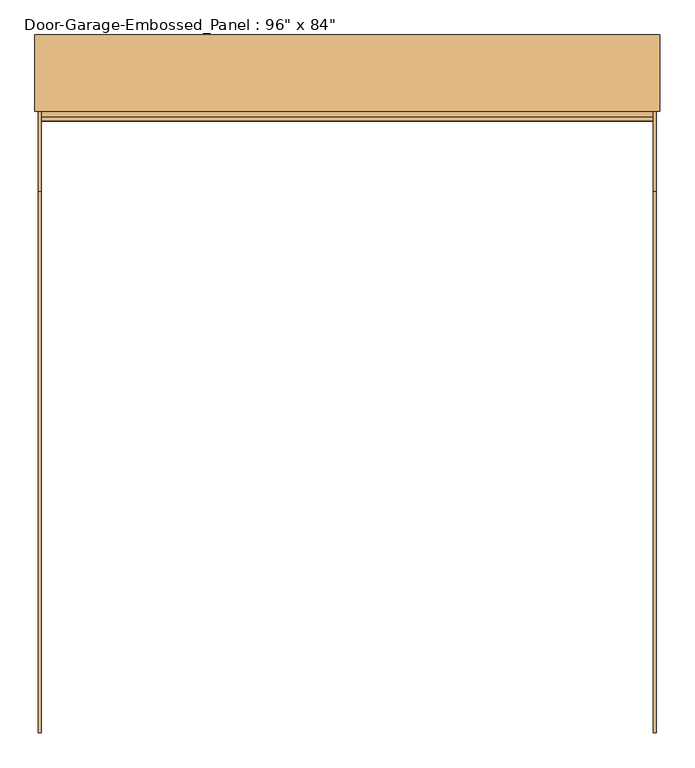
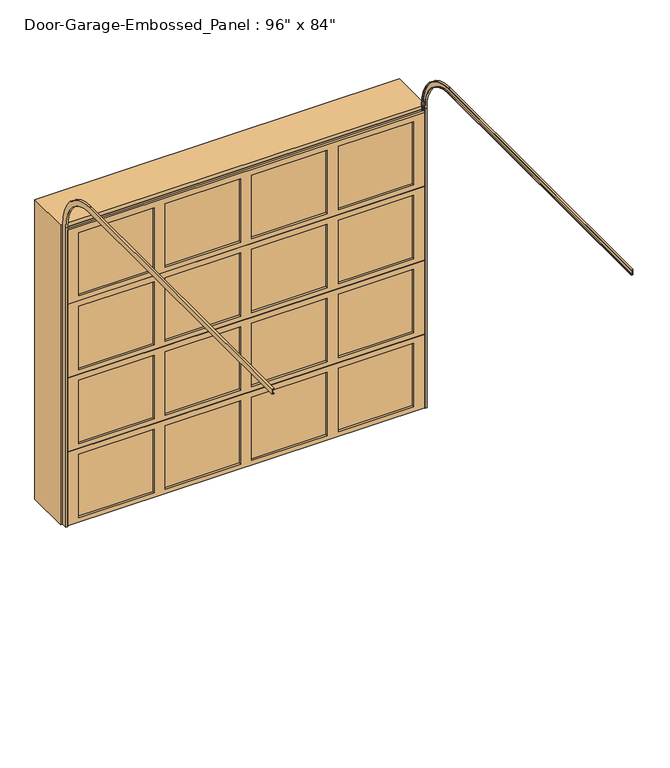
"""IFC4 building model written with IfcOpenShell, lengths in millimetres: door geometry."""

import ifcopenshell
import ifcopenshell.guid

model = None  # the IFC model being written
_history = None  # IfcOwnerHistory: only IFC2X3 demands one
_inside = {}  # id of a spatial element -> (the spatial element, [elements in it])
_under = {}  # id of a project, library or spatial element -> (it, [spatial elements below it])
_declared = {}  # id of a project -> (the project, [libraries it declares])
_typed = {}  # id of a type object -> (the type object, [elements of that type])
_made_of = {}  # id of a material, layer set ... -> (it, [elements and type objects made of it])


def new_model(schema):
    """Start an empty IFC model of exactly this schema.

    Asked for "IFC4X3", IfcOpenShell would pick the latest addendum, in which some entities
    have other attributes; the version numbers below select the first issue.
    IFC2X3 requires an IfcOwnerHistory on every rooted entity: one is made here for all.
    """
    global model, _history
    if schema == "IFC4X3":
        model = ifcopenshell.file(schema_version=(4, 3, 0, 0))
    else:
        model = ifcopenshell.file(schema=schema)
    _inside.clear()
    _under.clear()
    _declared.clear()
    _typed.clear()
    _made_of.clear()
    _history = None
    if model.schema == "IFC2X3":
        org = make("IfcOrganization", Name="unknown")
        user = make(
            "IfcPersonAndOrganization",
            ThePerson=make("IfcPerson", FamilyName="unknown"),
            TheOrganization=org,
        )
        app = make(
            "IfcApplication",
            ApplicationDeveloper=org,
            Version="unknown",
            ApplicationFullName="unknown",
            ApplicationIdentifier="unknown",
        )
        _history = make(
            "IfcOwnerHistory",
            OwningUser=user,
            OwningApplication=app,
            ChangeAction="ADDED",
            CreationDate=0,
        )
    return model


def make(cls, **values):
    """One entity of the class cls with the attributes given. An attribute that is None is left unset."""
    return model.create_entity(
        cls, **{name: value for name, value in values.items() if value is not None}
    )


def rooted(cls, **values):
    """An entity with a GlobalId (a new one), such as an element, a storey or a relation."""
    return make(cls, GlobalId=ifcopenshell.guid.new(), OwnerHistory=_history, **values)


def si_unit(unit_type, name, prefix=None):
    """IfcSIUnit, for example si_unit("LENGTHUNIT", "METRE", prefix="MILLI")."""
    return make("IfcSIUnit", UnitType=unit_type, Prefix=prefix, Name=name)


def assignment(units):
    """IfcUnitAssignment: the units of a project."""
    return None if units is None else make("IfcUnitAssignment", Units=units)


def point(xyz):
    """IfcCartesianPoint."""
    return None if xyz is None else make("IfcCartesianPoint", Coordinates=xyz)


def direction(xyz):
    """IfcDirection."""
    return None if xyz is None else make("IfcDirection", DirectionRatios=xyz)


def frame(location, z_axis=None, x_axis=None):
    """IfcAxis2Placement3D, a coordinate frame: its origin and axes. An axis left out is left unset."""
    return make(
        "IfcAxis2Placement3D",
        Location=point(location),
        Axis=direction(z_axis),
        RefDirection=direction(x_axis),
    )


def origin():
    """The frame at (0, 0, 0) with its axes left unset."""
    return frame((0.0, 0.0, 0.0))


def place(relative_to, where):
    """IfcLocalPlacement: puts the frame where relative to a parent placement (None: the world)."""
    return make(
        "IfcLocalPlacement", PlacementRelTo=relative_to, RelativePlacement=where
    )


def context(
    kind, dimensions, precision=None, world=None, true_north=None, identifier=None
):
    """IfcGeometricRepresentationContext, for example the 3D "Model" context."""
    return make(
        "IfcGeometricRepresentationContext",
        ContextIdentifier=identifier,
        ContextType=kind,
        CoordinateSpaceDimension=dimensions,
        Precision=precision,
        WorldCoordinateSystem=world,
        TrueNorth=true_north,
    )


def project(units=None, contexts=None):
    """IfcProject with its units and contexts."""
    return rooted(
        "IfcProject",
        Name="project",
        RepresentationContexts=contexts,
        UnitsInContext=assignment(units),
    )


def spatial(cls, under=None, at=None, **own):
    """A site, building, storey or space (cls), placed at a placement, below another one or the project."""
    s = rooted(cls, ObjectPlacement=at, **own)
    if under is not None:
        _under.setdefault(under.id(), (under, []))[1].append(s)
    return s


def polyline(points):
    """IfcPolyline through the points."""
    return make("IfcPolyline", Points=[point(p) for p in points])


def circle_curve(where, radius):
    """IfcCircle in the frame where."""
    return make("IfcCircle", Position=where, Radius=radius)


def outline(outer, holes=None, kind="AREA"):
    """IfcArbitraryClosedProfileDef: a profile drawn as a closed curve; with holes, ...WithVoids."""
    if holes is None:
        return make("IfcArbitraryClosedProfileDef", ProfileType=kind, OuterCurve=outer)
    return make(
        "IfcArbitraryProfileDefWithVoids",
        ProfileType=kind,
        OuterCurve=outer,
        InnerCurves=holes,
    )


def extrude(swept, where, along, depth):
    """IfcExtrudedAreaSolid: the profile swept, set in the frame where, extruded along a direction by depth."""
    return make(
        "IfcExtrudedAreaSolid",
        SweptArea=swept,
        Position=where,
        ExtrudedDirection=direction(along),
        Depth=depth,
    )


def faces_of(points, faces, orient=None, outer=None):
    """IfcFace entities. A face is a list of loops; a loop is a list of indices into points, from 0.

    orient and outer hold one flag for each loop. By default every Orientation is true, the
    first loop of a face is its IfcFaceOuterBound and the others are IfcFaceBound.
    """
    made = []
    for i, loops in enumerate(faces):
        bounds = []
        for j, loop in enumerate(loops):
            is_outer = j == 0 if outer is None else outer[i][j]
            bounds.append(
                make(
                    "IfcFaceOuterBound" if is_outer else "IfcFaceBound",
                    Bound=make("IfcPolyLoop", Polygon=[points[k] for k in loop]),
                    Orientation=True if orient is None else orient[i][j],
                )
            )
        made.append(make("IfcFace", Bounds=bounds))
    return made


def faceted_brep(points, faces, orient=None, outer=None, voids=None):
    """IfcFacetedBrep: a solid bounded by flat faces; with voids (closed shells), ...WithVoids."""
    shared = [point(p) for p in points]
    hull = make("IfcClosedShell", CfsFaces=faces_of(shared, faces, orient, outer))
    if voids is None:
        return make("IfcFacetedBrep", Outer=hull)
    return make(
        "IfcFacetedBrepWithVoids",
        Outer=hull,
        Voids=[
            make(cls, CfsFaces=faces_of(shared, fs, o, b)) for cls, fs, o, b in voids
        ],
    )


def shape(context_of_items, identifier, shape_type, items):
    """IfcShapeRepresentation: the items that make up one representation, for example the "Body"."""
    return make(
        "IfcShapeRepresentation",
        ContextOfItems=context_of_items,
        RepresentationIdentifier=identifier,
        RepresentationType=shape_type,
        Items=items,
    )


def source(mapping_origin, context_of_items, identifier, shape_type, items):
    """IfcRepresentationMap: a shape defined once, which mapped items show again and again."""
    return make(
        "IfcRepresentationMap",
        MappingOrigin=mapping_origin,
        MappedRepresentation=shape(context_of_items, identifier, shape_type, items),
    )


def transform(
    local_origin,
    x_axis=None,
    y_axis=None,
    z_axis=None,
    scale=None,
    scale2=None,
    scale3=None,
    uniform=True,
):
    """IfcCartesianTransformationOperator3D, or its non-uniform kind. x_axis, y_axis, z_axis: its Axis1, 2, 3."""
    if uniform:
        return make(
            "IfcCartesianTransformationOperator3D",
            Axis1=direction(x_axis),
            Axis2=direction(y_axis),
            LocalOrigin=point(local_origin),
            Scale=scale,
            Axis3=direction(z_axis),
        )
    return make(
        "IfcCartesianTransformationOperator3DnonUniform",
        Axis1=direction(x_axis),
        Axis2=direction(y_axis),
        LocalOrigin=point(local_origin),
        Scale=scale,
        Axis3=direction(z_axis),
        Scale2=scale2,
        Scale3=scale3,
    )


def mapped(mapping_source, mapping_target):
    """IfcMappedItem: shows the shape of a source again, moved by a transform."""
    return make(
        "IfcMappedItem", MappingSource=mapping_source, MappingTarget=mapping_target
    )


def made_of(thing, what):
    """Note that an element or type object is made of a material, layer set ...; save() writes the relation."""
    if what is not None:
        _made_of.setdefault(what.id(), (what, []))[1].append(thing)
    return thing


def element(
    cls,
    number,
    at=None,
    inside=None,
    cuts=None,
    type_object=None,
    material=None,
    context=None,
    identifier="Body",
    shape_type=None,
    held_by="IfcProductDefinitionShape",
    body=None,
    shapes=None,
    **own,
):
    """One element of the class cls, such as IfcWall. Its Tag is "e" and its number.

    at: its placement. inside: the storey or other place that contains it. cuts: it is an
    opening in that element (IfcRelVoidsElement). A single representation is given by context,
    identifier, shape_type and body (its items); several are given by shapes. held_by: the class
    of the entity that holds the representations. save() writes the other relations.
    """
    e = rooted(cls, Tag="e%d" % number, ObjectPlacement=at, **own)
    if body is not None:
        shapes = [shape(context, identifier, shape_type, body)]
    if shapes is not None:
        e.Representation = make(held_by, Representations=shapes)
    if inside is not None:
        _inside.setdefault(inside.id(), (inside, []))[1].append(e)
    if cuts is not None:
        rooted(
            "IfcRelVoidsElement", RelatingBuildingElement=cuts, RelatedOpeningElement=e
        )
    if type_object is not None:
        _typed.setdefault(type_object.id(), (type_object, []))[1].append(e)
    return made_of(e, material)


def aggregate(whole, parts):
    """IfcRelAggregates: a whole, such as a stair, and the parts it consists of."""
    return rooted("IfcRelAggregates", RelatingObject=whole, RelatedObjects=parts)


def save(model, path):
    """Write the relations noted so far, then the file.

    IfcRelAggregates (storeys below a building ...), IfcRelContainedInSpatialStructure (elements
    in a storey), IfcRelDefinesByType, IfcRelAssociatesMaterial and IfcRelDeclares: one each for
    every whole, place, type object, material and project.
    """
    for whole, parts in _under.values():
        aggregate(whole, parts)
    for where, things in _inside.values():
        rooted(
            "IfcRelContainedInSpatialStructure",
            RelatedElements=things,
            RelatingStructure=where,
        )
    for kind, things in _typed.values():
        rooted("IfcRelDefinesByType", RelatedObjects=things, RelatingType=kind)
    for what, things in _made_of.values():
        rooted("IfcRelAssociatesMaterial", RelatedObjects=things, RelatingMaterial=what)
    for by, libraries in _declared.values():
        rooted("IfcRelDeclares", RelatingContext=by, RelatedDefinitions=libraries)
    model.write(path)


def plane_surface(at):
    """IfcPlane: the flat surface through the origin of the frame at, square to its z axis."""
    return make("IfcPlane", Position=at)


def cylinder_surface(at, radius):
    """IfcCylindricalSurface: all points at the distance radius from the z axis of the frame at."""
    return make("IfcCylindricalSurface", Position=at, Radius=radius)


def revolved_surface(curve, axis_point, axis_direction):
    """IfcSurfaceOfRevolution: the curve turned about the line through axis_point along axis_direction."""
    return make(
        "IfcSurfaceOfRevolution",
        SweptCurve=make("IfcArbitraryOpenProfileDef", ProfileType="CURVE", Curve=curve),
        AxisPosition=make("IfcAxis1Placement", Location=point(axis_point), Axis=direction(axis_direction)),
    )


def advanced_brep(points, edges, surfaces, faces):
    """IfcAdvancedBrep: a solid bounded by faces that lie on surfaces and meet in shared edges.

    An edge is (start, end): straight between two places in points (the first is 0);
    or (start, end, curve); or (start, end, curve, False) where it runs against its curve.
    A face is (place in surfaces, loops), or (place, loops, False) where it looks against
    its surface's normal. A loop lists edges by number (the first is 1), with a minus sign
    where the edge is run from its end to its start. The first loop is the outer one.
    """
    corners = [point(p) for p in points]
    vertices = [make("IfcVertexPoint", VertexGeometry=c) for c in corners]
    made = []
    for start, end, *more in edges:
        made.append(
            make(
                "IfcEdgeCurve",
                EdgeStart=vertices[start],
                EdgeEnd=vertices[end],
                EdgeGeometry=more[0] if more else make("IfcPolyline", Points=[corners[start], corners[end]]),
                SameSense=more[1] if len(more) > 1 else True,
            )
        )
    hull = []
    for where, loops, *sense in faces:
        bounds = []
        for j, loop in enumerate(loops):
            ring = [make("IfcOrientedEdge", EdgeElement=made[abs(k) - 1], Orientation=k > 0) for k in loop]
            bounds.append(
                make(
                    "IfcFaceOuterBound" if j == 0 else "IfcFaceBound",
                    Bound=make("IfcEdgeLoop", EdgeList=ring),
                    Orientation=True,
                )
            )
        hull.append(make("IfcAdvancedFace", Bounds=bounds, FaceSurface=surfaces[where], SameSense=sense[0] if sense else True))
    return make("IfcAdvancedBrep", Outer=make("IfcClosedShell", CfsFaces=hull))


def door_7a04b6f2(model_context):
    return source(origin(), model_context, "Body", "SolidModel", [
        extrude(outline(polyline([(552.45, -171.45), (552.45, -177.8), (38.1, -177.8), (38.1, -171.45), (552.45, -171.45)])), frame((0.0, 0.0, 1638.3), z_axis=(0.0, 0.0, 1.0), x_axis=(1.0, 0.0, 0.0)), (0.0, 0.0, 1.0), 457.2),
        extrude(outline(polyline([(-38.1, -171.45), (-38.1, -177.8), (-552.45, -177.8), (-552.45, -171.45), (-38.1, -171.45)])), frame((0.0, 0.0, 1638.3), z_axis=(0.0, 0.0, 1.0), x_axis=(1.0, 0.0, 0.0)), (0.0, 0.0, 1.0), 457.2),
        extrude(outline(polyline([(1143.0, -171.45), (1143.0, -177.8), (628.65, -177.8), (628.65, -171.45), (1143.0, -171.45)])), frame((0.0, 0.0, 1638.3), z_axis=(0.0, 0.0, 1.0), x_axis=(1.0, 0.0, 0.0)), (0.0, 0.0, 1.0), 457.2),
        extrude(outline(polyline([(-628.65, -171.45), (-628.65, -177.8), (-1143.0, -177.8), (-1143.0, -171.45), (-628.65, -171.45)])), frame((0.0, 0.0, 1638.3), z_axis=(0.0, 0.0, 1.0), x_axis=(1.0, 0.0, 0.0)), (0.0, 0.0, 1.0), 457.2),
        faceted_brep([(1219.2, -177.8, 2136.775), (1219.2, -193.675, 2136.775), (1219.2, -193.675, 1606.55), (1219.2, -171.45, 1606.55), (1219.2, -171.45, 1600.2), (1219.2, -155.575, 1600.2), (1219.2, -155.575, 2130.425), (1219.2, -177.8, 2130.425), (-1219.2, -193.675, 2136.775), (-1219.2, -177.8, 2136.775), (-1219.2, -177.8, 2130.425), (-1219.2, -155.575, 2130.425), (-1219.2, -155.575, 1600.2), (-1219.2, -171.45, 1600.2), (-1219.2, -171.45, 1606.55), (-1219.2, -193.675, 1606.55), (628.65, -193.675, 2095.5), (1143.0, -193.675, 2095.5), (1143.0, -193.675, 1638.3), (628.65, -193.675, 1638.3), (-552.45, -193.675, 2095.5), (-38.1, -193.675, 2095.5), (-38.1, -193.675, 1638.3), (-552.45, -193.675, 1638.3), (38.1, -193.675, 2095.5), (552.45, -193.675, 2095.5), (552.45, -193.675, 1638.3), (38.1, -193.675, 1638.3), (-1143.0, -193.675, 2095.5), (-628.65, -193.675, 2095.5), (-628.65, -193.675, 1638.3), (-1143.0, -193.675, 1638.3), (1143.0, -155.575, 2095.5), (628.65, -155.575, 2095.5), (628.65, -155.575, 1638.3), (1143.0, -155.575, 1638.3), (-38.1, -155.575, 2095.5), (-552.45, -155.575, 2095.5), (-552.45, -155.575, 1638.3), (-38.1, -155.575, 1638.3), (552.45, -155.575, 2095.5), (38.1, -155.575, 2095.5), (38.1, -155.575, 1638.3), (552.45, -155.575, 1638.3), (-628.65, -155.575, 2095.5), (-1143.0, -155.575, 2095.5), (-1143.0, -155.575, 1638.3), (-628.65, -155.575, 1638.3)], [[[0, 1, 2, 3, 4, 5, 6, 7]], [[8, 9, 10, 11, 12, 13, 14, 15]], [[1, 0, 9, 8]], [[2, 1, 8, 15], [16, 17, 18, 19], [20, 21, 22, 23], [24, 25, 26, 27], [28, 29, 30, 31]], [[3, 2, 15, 14]], [[4, 3, 14, 13]], [[5, 4, 13, 12]], [[6, 5, 12, 11], [32, 33, 34, 35], [36, 37, 38, 39], [40, 41, 42, 43], [44, 45, 46, 47]], [[7, 6, 11, 10]], [[0, 7, 10, 9]], [[16, 33, 32, 17]], [[33, 16, 19, 34]], [[34, 19, 18, 35]], [[17, 32, 35, 18]], [[20, 37, 36, 21]], [[37, 20, 23, 38]], [[38, 23, 22, 39]], [[21, 36, 39, 22]], [[24, 41, 40, 25]], [[41, 24, 27, 42]], [[42, 27, 26, 43]], [[25, 40, 43, 26]], [[28, 45, 44, 29]], [[45, 28, 31, 46]], [[46, 31, 30, 47]], [[29, 44, 47, 30]]]),
        extrude(outline(polyline([(552.45, -171.45), (552.45, -177.8), (38.1, -177.8), (38.1, -171.45), (552.45, -171.45)])), frame((0.0, 0.0, 1104.9), z_axis=(0.0, 0.0, 1.0), x_axis=(1.0, 0.0, 0.0)), (0.0, 0.0, 1.0), 457.2),
        extrude(outline(polyline([(-38.1, -171.45), (-38.1, -177.8), (-552.45, -177.8), (-552.45, -171.45), (-38.1, -171.45)])), frame((0.0, 0.0, 1104.9), z_axis=(0.0, 0.0, 1.0), x_axis=(1.0, 0.0, 0.0)), (0.0, 0.0, 1.0), 457.2),
        extrude(outline(polyline([(1143.0, -171.45), (1143.0, -177.8), (628.65, -177.8), (628.65, -171.45), (1143.0, -171.45)])), frame((0.0, 0.0, 1104.9), z_axis=(0.0, 0.0, 1.0), x_axis=(1.0, 0.0, 0.0)), (0.0, 0.0, 1.0), 457.2),
        extrude(outline(polyline([(-628.65, -171.45), (-628.65, -177.8), (-1143.0, -177.8), (-1143.0, -171.45), (-628.65, -171.45)])), frame((0.0, 0.0, 1104.9), z_axis=(0.0, 0.0, 1.0), x_axis=(1.0, 0.0, 0.0)), (0.0, 0.0, 1.0), 457.2),
        faceted_brep([(1219.2, -177.8, 1603.375), (1219.2, -193.675, 1603.375), (1219.2, -193.675, 1073.15), (1219.2, -171.45, 1073.15), (1219.2, -171.45, 1066.8), (1219.2, -155.575, 1066.8), (1219.2, -155.575, 1597.025), (1219.2, -177.8, 1597.025), (-1219.2, -193.675, 1603.375), (-1219.2, -177.8, 1603.375), (-1219.2, -177.8, 1597.025), (-1219.2, -155.575, 1597.025), (-1219.2, -155.575, 1066.8), (-1219.2, -171.45, 1066.8), (-1219.2, -171.45, 1073.15), (-1219.2, -193.675, 1073.15), (628.65, -193.675, 1562.1), (1143.0, -193.675, 1562.1), (1143.0, -193.675, 1104.9), (628.65, -193.675, 1104.9), (-552.45, -193.675, 1562.1), (-38.1, -193.675, 1562.1), (-38.1, -193.675, 1104.9), (-552.45, -193.675, 1104.9), (38.1, -193.675, 1562.1), (552.45, -193.675, 1562.1), (552.45, -193.675, 1104.9), (38.1, -193.675, 1104.9), (-1143.0, -193.675, 1562.1), (-628.65, -193.675, 1562.1), (-628.65, -193.675, 1104.9), (-1143.0, -193.675, 1104.9), (1143.0, -155.575, 1562.1), (628.65, -155.575, 1562.1), (628.65, -155.575, 1104.9), (1143.0, -155.575, 1104.9), (-38.1, -155.575, 1562.1), (-552.45, -155.575, 1562.1), (-552.45, -155.575, 1104.9), (-38.1, -155.575, 1104.9), (552.45, -155.575, 1562.1), (38.1, -155.575, 1562.1), (38.1, -155.575, 1104.9), (552.45, -155.575, 1104.9), (-628.65, -155.575, 1562.1), (-1143.0, -155.575, 1562.1), (-1143.0, -155.575, 1104.9), (-628.65, -155.575, 1104.9)], [[[0, 1, 2, 3, 4, 5, 6, 7]], [[8, 9, 10, 11, 12, 13, 14, 15]], [[1, 0, 9, 8]], [[2, 1, 8, 15], [16, 17, 18, 19], [20, 21, 22, 23], [24, 25, 26, 27], [28, 29, 30, 31]], [[3, 2, 15, 14]], [[4, 3, 14, 13]], [[5, 4, 13, 12]], [[6, 5, 12, 11], [32, 33, 34, 35], [36, 37, 38, 39], [40, 41, 42, 43], [44, 45, 46, 47]], [[7, 6, 11, 10]], [[0, 7, 10, 9]], [[16, 33, 32, 17]], [[33, 16, 19, 34]], [[34, 19, 18, 35]], [[17, 32, 35, 18]], [[20, 37, 36, 21]], [[37, 20, 23, 38]], [[38, 23, 22, 39]], [[21, 36, 39, 22]], [[24, 41, 40, 25]], [[41, 24, 27, 42]], [[42, 27, 26, 43]], [[25, 40, 43, 26]], [[28, 45, 44, 29]], [[45, 28, 31, 46]], [[46, 31, 30, 47]], [[29, 44, 47, 30]]]),
        extrude(outline(polyline([(552.45, -171.45), (552.45, -177.8), (38.1, -177.8), (38.1, -171.45), (552.45, -171.45)])), frame((0.0, 0.0, 571.5), z_axis=(0.0, 0.0, 1.0), x_axis=(1.0, 0.0, 0.0)), (0.0, 0.0, 1.0), 457.2),
        extrude(outline(polyline([(-38.1, -171.45), (-38.1, -177.8), (-552.45, -177.8), (-552.45, -171.45), (-38.1, -171.45)])), frame((0.0, 0.0, 571.5), z_axis=(0.0, 0.0, 1.0), x_axis=(1.0, 0.0, 0.0)), (0.0, 0.0, 1.0), 457.2),
        extrude(outline(polyline([(1143.0, -171.45), (1143.0, -177.8), (628.65, -177.8), (628.65, -171.45), (1143.0, -171.45)])), frame((0.0, 0.0, 571.5), z_axis=(0.0, 0.0, 1.0), x_axis=(1.0, 0.0, 0.0)), (0.0, 0.0, 1.0), 457.2),
        extrude(outline(polyline([(-628.65, -171.45), (-628.65, -177.8), (-1143.0, -177.8), (-1143.0, -171.45), (-628.65, -171.45)])), frame((0.0, 0.0, 571.5), z_axis=(0.0, 0.0, 1.0), x_axis=(1.0, 0.0, 0.0)), (0.0, 0.0, 1.0), 457.2),
        faceted_brep([(1219.2, -177.8, 1069.975), (1219.2, -193.675, 1069.975), (1219.2, -193.675, 539.75), (1219.2, -171.45, 539.75), (1219.2, -171.45, 533.4), (1219.2, -155.575, 533.4), (1219.2, -155.575, 1063.625), (1219.2, -177.8, 1063.625), (-1219.2, -193.675, 1069.975), (-1219.2, -177.8, 1069.975), (-1219.2, -177.8, 1063.625), (-1219.2, -155.575, 1063.625), (-1219.2, -155.575, 533.4), (-1219.2, -171.45, 533.4), (-1219.2, -171.45, 539.75), (-1219.2, -193.675, 539.75), (628.65, -193.675, 1028.7), (1143.0, -193.675, 1028.7), (1143.0, -193.675, 571.5), (628.65, -193.675, 571.5), (-552.45, -193.675, 1028.7), (-38.1, -193.675, 1028.7), (-38.1, -193.675, 571.5), (-552.45, -193.675, 571.5), (38.1, -193.675, 1028.7), (552.45, -193.675, 1028.7), (552.45, -193.675, 571.5), (38.1, -193.675, 571.5), (-1143.0, -193.675, 1028.7), (-628.65, -193.675, 1028.7), (-628.65, -193.675, 571.5), (-1143.0, -193.675, 571.5), (1143.0, -155.575, 1028.7), (628.65, -155.575, 1028.7), (628.65, -155.575, 571.5), (1143.0, -155.575, 571.5), (-38.1, -155.575, 1028.7), (-552.45, -155.575, 1028.7), (-552.45, -155.575, 571.5), (-38.1, -155.575, 571.5), (552.45, -155.575, 1028.7), (38.1, -155.575, 1028.7), (38.1, -155.575, 571.5), (552.45, -155.575, 571.5), (-628.65, -155.575, 1028.7), (-1143.0, -155.575, 1028.7), (-1143.0, -155.575, 571.5), (-628.65, -155.575, 571.5)], [[[0, 1, 2, 3, 4, 5, 6, 7]], [[8, 9, 10, 11, 12, 13, 14, 15]], [[1, 0, 9, 8]], [[2, 1, 8, 15], [16, 17, 18, 19], [20, 21, 22, 23], [24, 25, 26, 27], [28, 29, 30, 31]], [[3, 2, 15, 14]], [[4, 3, 14, 13]], [[5, 4, 13, 12]], [[6, 5, 12, 11], [32, 33, 34, 35], [36, 37, 38, 39], [40, 41, 42, 43], [44, 45, 46, 47]], [[7, 6, 11, 10]], [[0, 7, 10, 9]], [[16, 33, 32, 17]], [[33, 16, 19, 34]], [[34, 19, 18, 35]], [[17, 32, 35, 18]], [[20, 37, 36, 21]], [[37, 20, 23, 38]], [[38, 23, 22, 39]], [[21, 36, 39, 22]], [[24, 41, 40, 25]], [[41, 24, 27, 42]], [[42, 27, 26, 43]], [[25, 40, 43, 26]], [[28, 45, 44, 29]], [[45, 28, 31, 46]], [[46, 31, 30, 47]], [[29, 44, 47, 30]]]),
        extrude(outline(polyline([(552.45, -171.45), (552.45, -177.8), (38.1, -177.8), (38.1, -171.45), (552.45, -171.45)])), frame((0.0, 0.0, 38.1), z_axis=(0.0, 0.0, 1.0), x_axis=(1.0, 0.0, 0.0)), (0.0, 0.0, 1.0), 457.2),
        extrude(outline(polyline([(-38.1, -171.45), (-38.1, -177.8), (-552.45, -177.8), (-552.45, -171.45), (-38.1, -171.45)])), frame((0.0, 0.0, 38.1), z_axis=(0.0, 0.0, 1.0), x_axis=(1.0, 0.0, 0.0)), (0.0, 0.0, 1.0), 457.2),
        extrude(outline(polyline([(1143.0, -171.45), (1143.0, -177.8), (628.65, -177.8), (628.65, -171.45), (1143.0, -171.45)])), frame((0.0, 0.0, 38.1), z_axis=(0.0, 0.0, 1.0), x_axis=(1.0, 0.0, 0.0)), (0.0, 0.0, 1.0), 457.2),
        extrude(outline(polyline([(-628.65, -171.45), (-628.65, -177.8), (-1143.0, -177.8), (-1143.0, -171.45), (-628.65, -171.45)])), frame((0.0, 0.0, 38.1), z_axis=(0.0, 0.0, 1.0), x_axis=(1.0, 0.0, 0.0)), (0.0, 0.0, 1.0), 457.2),
        faceted_brep([(1219.2, -177.8, 536.575), (1219.2, -193.675, 536.575), (1219.2, -193.675, 6.35), (1219.2, -171.45, 6.35), (1219.2, -171.45, 0.0), (1219.2, -155.575, 0.0), (1219.2, -155.575, 530.225), (1219.2, -177.8, 530.225), (-1219.2, -193.675, 536.575), (-1219.2, -177.8, 536.575), (-1219.2, -177.8, 530.225), (-1219.2, -155.575, 530.225), (-1219.2, -155.575, 0.0), (-1219.2, -171.45, 0.0), (-1219.2, -171.45, 6.35), (-1219.2, -193.675, 6.35), (628.65, -193.675, 495.3), (1143.0, -193.675, 495.3), (1143.0, -193.675, 38.1), (628.65, -193.675, 38.1), (-552.45, -193.675, 495.3), (-38.1, -193.675, 495.3), (-38.1, -193.675, 38.1), (-552.45, -193.675, 38.1), (38.1, -193.675, 495.3), (552.45, -193.675, 495.3), (552.45, -193.675, 38.1), (38.1, -193.675, 38.1), (-1143.0, -193.675, 495.3), (-628.65, -193.675, 495.3), (-628.65, -193.675, 38.1), (-1143.0, -193.675, 38.1), (1143.0, -155.575, 495.3), (628.65, -155.575, 495.3), (628.65, -155.575, 38.1), (1143.0, -155.575, 38.1), (-38.1, -155.575, 495.3), (-552.45, -155.575, 495.3), (-552.45, -155.575, 38.1), (-38.1, -155.575, 38.1), (552.45, -155.575, 495.3), (38.1, -155.575, 495.3), (38.1, -155.575, 38.1), (552.45, -155.575, 38.1), (-628.65, -155.575, 495.3), (-1143.0, -155.575, 495.3), (-1143.0, -155.575, 38.1), (-628.65, -155.575, 38.1)], [[[0, 1, 2, 3, 4, 5, 6, 7]], [[8, 9, 10, 11, 12, 13, 14, 15]], [[1, 0, 9, 8]], [[2, 1, 8, 15], [16, 17, 18, 19], [20, 21, 22, 23], [24, 25, 26, 27], [28, 29, 30, 31]], [[3, 2, 15, 14]], [[4, 3, 14, 13]], [[5, 4, 13, 12]], [[6, 5, 12, 11], [32, 33, 34, 35], [36, 37, 38, 39], [40, 41, 42, 43], [44, 45, 46, 47]], [[7, 6, 11, 10]], [[0, 7, 10, 9]], [[16, 33, 32, 17]], [[33, 16, 19, 34]], [[34, 19, 18, 35]], [[17, 32, 35, 18]], [[20, 37, 36, 21]], [[37, 20, 23, 38]], [[38, 23, 22, 39]], [[21, 36, 39, 22]], [[24, 41, 40, 25]], [[41, 24, 27, 42]], [[42, 27, 26, 43]], [[25, 40, 43, 26]], [[28, 45, 44, 29]], [[45, 28, 31, 46]], [[46, 31, 30, 47]], [[29, 44, 47, 30]]]),
        advanced_brep(
        [(1231.9, -193.675, 0.0), (1219.2, -193.675, 0.0), (1219.2, -190.5, 0.0), (1228.725, -190.5, 0.0), (1228.725, -158.75, 0.0), (1219.2, -158.75, 0.0), (1219.2, -155.575, 0.0), (1231.9, -155.575, 0.0), (1231.9, -193.675, 2159.0), (1219.2, -193.675, 2159.0), (1219.2, -473.075, 2438.4), (1219.2, -2632.075, 2438.4), (1219.2, -2632.075, 2441.575), (1219.2, -473.075, 2441.575), (1219.2, -190.5, 2159.0), (1228.725, -190.5, 2159.0), (1228.725, -473.075, 2441.575), (1228.725, -2632.075, 2441.575), (1228.725, -2632.075, 2473.325), (1228.725, -473.075, 2473.325), (1228.725, -158.75, 2159.0), (1219.2, -158.75, 2159.0), (1219.2, -473.075, 2473.325), (1219.2, -2632.075, 2473.325), (1219.2, -2632.075, 2476.5), (1219.2, -473.075, 2476.5), (1219.2, -155.575, 2159.0), (1231.9, -155.575, 2159.0), (1231.9, -473.075, 2476.5), (1231.9, -2632.075, 2476.5), (1231.9, -2632.075, 2438.4), (1231.9, -473.075, 2438.4)],
        [
            (0, 1),
            (1, 2),
            (2, 3),
            (3, 4),
            (4, 5),
            (5, 6),
            (6, 7),
            (7, 0),
            (0, 8),
            (8, 9),
            (9, 1),
            (9, 10, circle_curve(frame((1219.2, -473.075, 2159.0), z_axis=(1.0, 0.0, 0.0), x_axis=(0.0, 1.0, 0.0)), 279.4)),
            (10, 11),
            (11, 12),
            (12, 13),
            (13, 14, circle_curve(frame((1219.2, -473.075, 2159.0), z_axis=(-1.0, 0.0, 0.0), x_axis=(0.0, 1.0, 0.0)), 282.575)),
            (14, 2),
            (14, 15),
            (15, 3),
            (15, 16, circle_curve(frame((1228.725, -473.075, 2159.0), z_axis=(1.0, 0.0, 0.0), x_axis=(0.0, 1.0, 0.0)), 282.575)),
            (16, 17),
            (17, 18),
            (18, 19),
            (19, 20, circle_curve(frame((1228.725, -473.075, 2159.0), z_axis=(-1.0, 0.0, 0.0), x_axis=(0.0, 1.0, 0.0)), 314.325)),
            (20, 4),
            (20, 21),
            (21, 5),
            (21, 22, circle_curve(frame((1219.2, -473.075, 2159.0), z_axis=(1.0, 0.0, 0.0), x_axis=(0.0, 1.0, 0.0)), 314.325)),
            (22, 23),
            (23, 24),
            (24, 25),
            (25, 26, circle_curve(frame((1219.2, -473.075, 2159.0), z_axis=(-1.0, 0.0, 0.0), x_axis=(0.0, 1.0, 0.0)), 317.5)),
            (26, 6),
            (26, 27),
            (27, 7),
            (27, 28, circle_curve(frame((1231.9, -473.075, 2159.0), z_axis=(1.0, 0.0, 0.0), x_axis=(0.0, 1.0, 0.0)), 317.5)),
            (28, 29),
            (29, 30),
            (30, 31),
            (31, 8, circle_curve(frame((1231.9, -473.075, 2159.0), z_axis=(-1.0, 0.0, 0.0), x_axis=(0.0, 1.0, 0.0)), 279.4)),
            (31, 10),
            (13, 16),
            (19, 22),
            (25, 28),
            (29, 24),
            (23, 18),
            (17, 12),
            (11, 30),
        ],
        [
            plane_surface(frame((0.0, -193.675, 0.0), z_axis=(0.0, 0.0, -1.0), x_axis=(1.0, 0.0, 0.0))),
            plane_surface(frame((1231.9, -193.675, 0.0), z_axis=(0.0, -1.0, 0.0), x_axis=(0.0, 0.0, 1.0))),
            plane_surface(frame((1219.2, -193.675, 0.0), z_axis=(-1.0, 0.0, 0.0), x_axis=(0.0, 0.0, 1.0))),
            plane_surface(frame((1219.2, -190.5, 0.0), z_axis=(0.0, 1.0, 0.0), x_axis=(0.0, 0.0, 1.0))),
            plane_surface(frame((1228.725, -190.5, 0.0), z_axis=(-1.0, 0.0, 0.0), x_axis=(0.0, 0.0, 1.0))),
            plane_surface(frame((1228.725, -158.75, 0.0), z_axis=(0.0, -1.0, 0.0), x_axis=(0.0, 0.0, 1.0))),
            plane_surface(frame((1219.2, -158.75, 0.0), z_axis=(-1.0, 0.0, 0.0), x_axis=(0.0, 0.0, 1.0))),
            plane_surface(frame((1219.2, -155.575, 0.0), z_axis=(0.0, 1.0, 0.0), x_axis=(0.0, 0.0, 1.0))),
            plane_surface(frame((1231.9, -155.575, 0.0), z_axis=(1.0, 0.0, 0.0), x_axis=(0.0, 0.0, 1.0))),
            revolved_surface(polyline([(1231.9, -193.675, 2159.0), (1219.2, -193.675, 2159.0)]), (0.0, -473.075, 2159.0), (1.0, 0.0, 0.0)),
            cylinder_surface(frame((0.0, -473.075, 2159.0), z_axis=(1.0, 0.0, 0.0), x_axis=(0.0, 1.0, 0.0)), 282.575),
            revolved_surface(polyline([(1228.725, -158.75, 2159.0), (1219.2, -158.75, 2159.0)]), (0.0, -473.075, 2159.0), (1.0, 0.0, 0.0)),
            cylinder_surface(frame((0.0, -473.075, 2159.0), z_axis=(1.0, 0.0, 0.0), x_axis=(0.0, 1.0, 0.0)), 317.5),
            plane_surface(frame((0.0, -2632.075, 2438.4), z_axis=(0.0, -1.0, 0.0), x_axis=(1.0, 0.0, 0.0))),
            plane_surface(frame((1231.9, -473.075, 2438.4), z_axis=(0.0, 0.0, -1.0), x_axis=(0.0, -1.0, 0.0))),
            plane_surface(frame((1219.2, -473.075, 2441.575), z_axis=(0.0, 0.0, 1.0), x_axis=(0.0, -1.0, 0.0))),
            plane_surface(frame((1228.725, -473.075, 2473.325), z_axis=(0.0, 0.0, -1.0), x_axis=(0.0, -1.0, 0.0))),
            plane_surface(frame((1219.2, -473.075, 2476.5), z_axis=(0.0, 0.0, 1.0), x_axis=(0.0, -1.0, 0.0))),
        ],
        [
            (0, [[1, 2, 3, 4, 5, 6, 7, 8]]),
            (1, [[-1, 9, 10, 11]]),
            (2, [[-2, -11, 12, 13, 14, 15, 16, 17]]),
            (3, [[-3, -17, 18, 19]]),
            (4, [[-4, -19, 20, 21, 22, 23, 24, 25]]),
            (5, [[-5, -25, 26, 27]]),
            (6, [[-6, -27, 28, 29, 30, 31, 32, 33]]),
            (7, [[-7, -33, 34, 35]]),
            (8, [[-8, -35, 36, 37, 38, 39, 40, -9]]),
            (9, [[-12, -10, -40, 41]]),
            (10, [[-20, -18, -16, 42]]),
            (11, [[-28, -26, -24, 43]]),
            (12, [[-36, -34, -32, 44]]),
            (13, [[-38, 45, -30, 46, -22, 47, -14, 48]]),
            (14, [[-41, -39, -48, -13]]),
            (15, [[-42, -15, -47, -21]]),
            (16, [[-43, -23, -46, -29]]),
            (17, [[-44, -31, -45, -37]]),
        ],
    ),
        advanced_brep(
        [(-1231.9, -193.675, 0.0), (-1231.9, -155.575, 0.0), (-1219.2, -155.575, 0.0), (-1219.2, -158.75, 0.0), (-1228.725, -158.75, 0.0), (-1228.725, -190.5, 0.0), (-1219.2, -190.5, 0.0), (-1219.2, -193.675, 0.0), (-1231.9, -193.675, 2159.0), (-1231.9, -473.075, 2438.4), (-1231.9, -2632.075, 2438.4), (-1231.9, -2632.075, 2476.5), (-1231.9, -473.075, 2476.5), (-1231.9, -155.575, 2159.0), (-1219.2, -155.575, 2159.0), (-1219.2, -473.075, 2476.5), (-1219.2, -2632.075, 2476.5), (-1219.2, -2632.075, 2473.325), (-1219.2, -473.075, 2473.325), (-1219.2, -158.75, 2159.0), (-1228.725, -158.75, 2159.0), (-1228.725, -473.075, 2473.325), (-1228.725, -2632.075, 2473.325), (-1228.725, -2632.075, 2441.575), (-1228.725, -473.075, 2441.575), (-1228.725, -190.5, 2159.0), (-1219.2, -190.5, 2159.0), (-1219.2, -473.075, 2441.575), (-1219.2, -2632.075, 2441.575), (-1219.2, -2632.075, 2438.4), (-1219.2, -473.075, 2438.4), (-1219.2, -193.675, 2159.0)],
        [
            (0, 1),
            (1, 2),
            (2, 3),
            (3, 4),
            (4, 5),
            (5, 6),
            (6, 7),
            (7, 0),
            (0, 8),
            (8, 9, circle_curve(frame((-1231.9, -473.075, 2159.0), z_axis=(1.0, 0.0, 0.0), x_axis=(0.0, 1.0, 0.0)), 279.4)),
            (9, 10),
            (10, 11),
            (11, 12),
            (12, 13, circle_curve(frame((-1231.9, -473.075, 2159.0), z_axis=(-1.0, 0.0, 0.0), x_axis=(0.0, 1.0, 0.0)), 317.5)),
            (13, 1),
            (13, 14),
            (14, 2),
            (14, 15, circle_curve(frame((-1219.2, -473.075, 2159.0), z_axis=(1.0, 0.0, 0.0), x_axis=(0.0, 1.0, 0.0)), 317.5)),
            (15, 16),
            (16, 17),
            (17, 18),
            (18, 19, circle_curve(frame((-1219.2, -473.075, 2159.0), z_axis=(-1.0, 0.0, 0.0), x_axis=(0.0, 1.0, 0.0)), 314.325)),
            (19, 3),
            (19, 20),
            (20, 4),
            (20, 21, circle_curve(frame((-1228.725, -473.075, 2159.0), z_axis=(1.0, 0.0, 0.0), x_axis=(0.0, 1.0, 0.0)), 314.325)),
            (21, 22),
            (22, 23),
            (23, 24),
            (24, 25, circle_curve(frame((-1228.725, -473.075, 2159.0), z_axis=(-1.0, 0.0, 0.0), x_axis=(0.0, 1.0, 0.0)), 282.575)),
            (25, 5),
            (25, 26),
            (26, 6),
            (26, 27, circle_curve(frame((-1219.2, -473.075, 2159.0), z_axis=(1.0, 0.0, 0.0), x_axis=(0.0, 1.0, 0.0)), 282.575)),
            (27, 28),
            (28, 29),
            (29, 30),
            (30, 31, circle_curve(frame((-1219.2, -473.075, 2159.0), z_axis=(-1.0, 0.0, 0.0), x_axis=(0.0, 1.0, 0.0)), 279.4)),
            (31, 7),
            (31, 8),
            (12, 15),
            (18, 21),
            (24, 27),
            (30, 9),
            (10, 29),
            (28, 23),
            (22, 17),
            (16, 11),
        ],
        [
            plane_surface(frame((0.0, -193.675, 0.0), z_axis=(0.0, 0.0, -1.0), x_axis=(1.0, 0.0, 0.0))),
            plane_surface(frame((-1231.9, -193.675, 0.0), z_axis=(-1.0, 0.0, 0.0), x_axis=(0.0, 0.0, 1.0))),
            plane_surface(frame((-1231.9, -155.575, 0.0), z_axis=(0.0, 1.0, 0.0), x_axis=(0.0, 0.0, 1.0))),
            plane_surface(frame((-1219.2, -155.575, 0.0), z_axis=(1.0, 0.0, 0.0), x_axis=(0.0, 0.0, 1.0))),
            plane_surface(frame((-1219.2, -158.75, 0.0), z_axis=(0.0, -1.0, 0.0), x_axis=(0.0, 0.0, 1.0))),
            plane_surface(frame((-1228.725, -158.75, 0.0), z_axis=(1.0, 0.0, 0.0), x_axis=(0.0, 0.0, 1.0))),
            plane_surface(frame((-1228.725, -190.5, 0.0), z_axis=(0.0, 1.0, 0.0), x_axis=(0.0, 0.0, 1.0))),
            plane_surface(frame((-1219.2, -190.5, 0.0), z_axis=(1.0, 0.0, 0.0), x_axis=(0.0, 0.0, 1.0))),
            plane_surface(frame((-1219.2, -193.675, 0.0), z_axis=(0.0, -1.0, 0.0), x_axis=(0.0, 0.0, 1.0))),
            cylinder_surface(frame((0.0, -473.075, 2159.0), z_axis=(1.0, 0.0, 0.0), x_axis=(0.0, 1.0, 0.0)), 317.5),
            revolved_surface(polyline([(-1219.2, -158.75, 2159.0), (-1228.725, -158.75, 2159.0)]), (0.0, -473.075, 2159.0), (1.0, 0.0, 0.0)),
            cylinder_surface(frame((0.0, -473.075, 2159.0), z_axis=(1.0, 0.0, 0.0), x_axis=(0.0, 1.0, 0.0)), 282.575),
            revolved_surface(polyline([(-1219.2, -193.675, 2159.0), (-1231.9, -193.675, 2159.0)]), (0.0, -473.075, 2159.0), (1.0, 0.0, 0.0)),
            plane_surface(frame((0.0, -2632.075, 2438.4), z_axis=(0.0, -1.0, 0.0), x_axis=(1.0, 0.0, 0.0))),
            plane_surface(frame((-1231.9, -473.075, 2476.5), z_axis=(0.0, 0.0, 1.0), x_axis=(0.0, -1.0, 0.0))),
            plane_surface(frame((-1219.2, -473.075, 2473.325), z_axis=(0.0, 0.0, -1.0), x_axis=(0.0, -1.0, 0.0))),
            plane_surface(frame((-1228.725, -473.075, 2441.575), z_axis=(0.0, 0.0, 1.0), x_axis=(0.0, -1.0, 0.0))),
            plane_surface(frame((-1219.2, -473.075, 2438.4), z_axis=(0.0, 0.0, -1.0), x_axis=(0.0, -1.0, 0.0))),
        ],
        [
            (0, [[1, 2, 3, 4, 5, 6, 7, 8]]),
            (1, [[-1, 9, 10, 11, 12, 13, 14, 15]]),
            (2, [[-2, -15, 16, 17]]),
            (3, [[-3, -17, 18, 19, 20, 21, 22, 23]]),
            (4, [[-4, -23, 24, 25]]),
            (5, [[-5, -25, 26, 27, 28, 29, 30, 31]]),
            (6, [[-6, -31, 32, 33]]),
            (7, [[-7, -33, 34, 35, 36, 37, 38, 39]]),
            (8, [[-8, -39, 40, -9]]),
            (9, [[-18, -16, -14, 41]]),
            (10, [[-26, -24, -22, 42]]),
            (11, [[-34, -32, -30, 43]]),
            (12, [[-10, -40, -38, 44]]),
            (13, [[45, -36, 46, -28, 47, -20, 48, -12]]),
            (14, [[-41, -13, -48, -19]]),
            (15, [[-42, -21, -47, -27]]),
            (16, [[-43, -29, -46, -35]]),
            (17, [[-44, -37, -45, -11]]),
        ],
    ),
        extrude(outline(polyline([(0.0, 1219.2), (0.0, 1244.6), (2159.0, 1244.6), (2159.0, -1244.6), (0.0, -1244.6), (0.0, -1219.2), (2133.6, -1219.2), (2133.6, 1219.2), (0.0, 1219.2)])), frame((0.0, -155.575, 0.0), z_axis=(0.0, 1.0, 0.0), x_axis=(0.0, 0.0, 1.0)), (0.0, 0.0, 1.0), 304.8),
    ])


if __name__ == "__main__":
    model = new_model("IFC4")
    model_context = context("Model", 3, world=origin())
    ifc_project = project(units=[si_unit("LENGTHUNIT", "METRE", prefix="MILLI")], contexts=[model_context])
    site = spatial("IfcSite", under=ifc_project)
    building = spatial("IfcBuilding", under=site)
    placement = place(None, origin())
    door_shape = door_7a04b6f2(model_context)
    element("IfcDoor", 1, ObjectType="Door-Garage-Embossed_Panel : 96\" x 84\"", at=placement, inside=building, context=model_context, shape_type="MappedRepresentation", body=[
        mapped(door_shape, transform((0.0, 0.0, 0.0), x_axis=(1.0, 0.0, 0.0), y_axis=(0.0, 1.0, 0.0), z_axis=(0.0, 0.0, 1.0))),
    ])
    save(model, "model.ifc")
